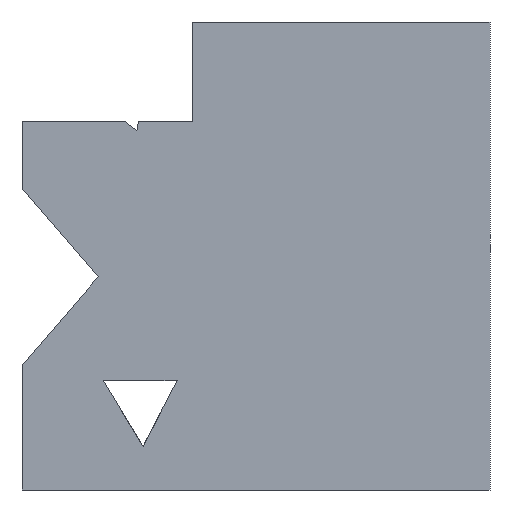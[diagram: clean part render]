
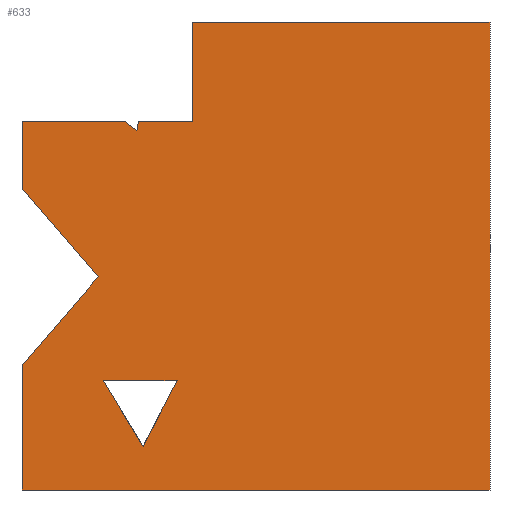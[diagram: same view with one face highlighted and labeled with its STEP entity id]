
A CAD part, front view. The second image highlights one B-rep face of the part: STEP entity #633.
In plain terms, the highlighted planar face has unit normal (0, -1, 0).
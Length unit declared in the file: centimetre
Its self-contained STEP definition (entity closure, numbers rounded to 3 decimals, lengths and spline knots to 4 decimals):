
#1 = DIRECTION ( 'NONE',  ( 0., 1., 0. ) ) ;
#2 = EDGE_CURVE ( 'NONE', #272, #228, #312, .T. ) ;
#3 = CARTESIAN_POINT ( 'NONE',  ( 0., 0., 265.6039 ) ) ;
#7 = DIRECTION ( 'NONE',  ( 0., 0., 1. ) ) ;
#17 = CARTESIAN_POINT ( 'NONE',  ( 162.7425, 0., 455.3137 ) ) ;
#32 = CARTESIAN_POINT ( 'NONE',  ( 365.2625, 0., 788.43 ) ) ;
#34 = VECTOR ( 'NONE', #336, 100. ) ;
#36 = ORIENTED_EDGE ( 'NONE', *, *, #166, .F. ) ;
#51 = LINE ( 'NONE', #369, #489 ) ;
#52 = EDGE_CURVE ( 'NONE', #630, #149, #573, .T. ) ;
#53 = CARTESIAN_POINT ( 'NONE',  ( 365.2625, 0., 788.43 ) ) ;
#56 = LINE ( 'NONE', #61, #620 ) ;
#61 = CARTESIAN_POINT ( 'NONE',  ( 245.505, 0., 767.9714 ) ) ;
#77 = LINE ( 'NONE', #491, #185 ) ;
#82 = DIRECTION ( 'NONE',  ( 0., 0., -1. ) ) ;
#83 = VERTEX_POINT ( 'NONE', #342 ) ;
#116 = DIRECTION ( 'NONE',  ( 0.148, 0., 0.989 ) ) ;
#119 = VECTOR ( 'NONE', #505, 100. ) ;
#122 = CARTESIAN_POINT ( 'NONE',  ( 0., 0., 265.6039 ) ) ;
#125 = AXIS2_PLACEMENT_3D ( 'NONE', #216, #1, #425 ) ;
#130 = CARTESIAN_POINT ( 'NONE',  ( 0., 0., 1000. ) ) ;
#141 = ORIENTED_EDGE ( 'NONE', *, *, #322, .T. ) ;
#149 = VERTEX_POINT ( 'NONE', #17 ) ;
#152 = FACE_OUTER_BOUND ( 'NONE', #397, .T. ) ;
#155 = CARTESIAN_POINT ( 'NONE',  ( 365.2625, 0., 788.43 ) ) ;
#166 = EDGE_CURVE ( 'NONE', #474, #360, #172, .T. ) ;
#171 = CARTESIAN_POINT ( 'NONE',  ( 365.2625, 0., 788.43 ) ) ;
#172 = LINE ( 'NONE', #393, #611 ) ;
#173 = LINE ( 'NONE', #122, #34 ) ;
#175 = EDGE_CURVE ( 'NONE', #431, #180, #559, .T. ) ;
#180 = VERTEX_POINT ( 'NONE', #197 ) ;
#185 = VECTOR ( 'NONE', #567, 100. ) ;
#197 = CARTESIAN_POINT ( 'NONE',  ( 173.5571, 0., 233.5737 ) ) ;
#214 = ORIENTED_EDGE ( 'NONE', *, *, #2, .F. ) ;
#216 = CARTESIAN_POINT ( 'NONE',  ( 0., 0., 1000. ) ) ;
#219 = CARTESIAN_POINT ( 'NONE',  ( 248.5589, 0., 788.43 ) ) ;
#220 = LINE ( 'NONE', #648, #565 ) ;
#221 = VECTOR ( 'NONE', #305, 100. ) ;
#228 = VERTEX_POINT ( 'NONE', #501 ) ;
#231 = CARTESIAN_POINT ( 'NONE',  ( 258.6713, 0., 93.214 ) ) ;
#234 = DIRECTION ( 'NONE',  ( -0.461, 0., -0.887 ) ) ;
#240 = DIRECTION ( 'NONE',  ( 1., 0., 0. ) ) ;
#249 = CARTESIAN_POINT ( 'NONE',  ( 173.5571, 0., 233.5737 ) ) ;
#251 = ORIENTED_EDGE ( 'NONE', *, *, #260, .T. ) ;
#260 = EDGE_CURVE ( 'NONE', #474, #324, #509, .T. ) ;
#271 = LINE ( 'NONE', #155, #306 ) ;
#272 = VERTEX_POINT ( 'NONE', #682 ) ;
#278 = CARTESIAN_POINT ( 'NONE',  ( 219.7758, 0., 788.43 ) ) ;
#279 = VECTOR ( 'NONE', #453, 100. ) ;
#280 = FACE_BOUND ( 'NONE', #347, .T. ) ;
#281 = ORIENTED_EDGE ( 'NONE', *, *, #52, .T. ) ;
#285 = VECTOR ( 'NONE', #7, 100. ) ;
#288 = ORIENTED_EDGE ( 'NONE', *, *, #334, .T. ) ;
#291 = LINE ( 'NONE', #231, #555 ) ;
#300 = ORIENTED_EDGE ( 'NONE', *, *, #661, .F. ) ;
#305 = DIRECTION ( 'NONE',  ( 0.651, 0., -0.759 ) ) ;
#306 = VECTOR ( 'NONE', #640, 100. ) ;
#312 = LINE ( 'NONE', #577, #581 ) ;
#318 = DIRECTION ( 'NONE',  ( 0., 0., -1. ) ) ;
#322 = EDGE_CURVE ( 'NONE', #495, #83, #77, .T. ) ;
#323 = CARTESIAN_POINT ( 'NONE',  ( 258.6713, 0., 93.214 ) ) ;
#324 = VERTEX_POINT ( 'NONE', #560 ) ;
#329 = EDGE_CURVE ( 'NONE', #406, #495, #346, .T. ) ;
#331 = DIRECTION ( 'NONE',  ( 0.783, 0., -0.622 ) ) ;
#334 = EDGE_CURVE ( 'NONE', #513, #431, #291, .T. ) ;
#336 = DIRECTION ( 'NONE',  ( -0.651, 0., -0.759 ) ) ;
#342 = CARTESIAN_POINT ( 'NONE',  ( 1000., 0., 0. ) ) ;
#346 = LINE ( 'NONE', #130, #544 ) ;
#347 = EDGE_LOOP ( 'NONE', ( #353, #288, #649 ) ) ;
#353 = ORIENTED_EDGE ( 'NONE', *, *, #527, .T. ) ;
#360 = VERTEX_POINT ( 'NONE', #395 ) ;
#362 = EDGE_CURVE ( 'NONE', #149, #406, #173, .T. ) ;
#365 = VECTOR ( 'NONE', #651, 100. ) ;
#369 = CARTESIAN_POINT ( 'NONE',  ( 0., 0., 1000. ) ) ;
#374 = LINE ( 'NONE', #171, #285 ) ;
#376 = DIRECTION ( 'NONE',  ( 1., 0., 0. ) ) ;
#392 = ORIENTED_EDGE ( 'NONE', *, *, #574, .F. ) ;
#393 = CARTESIAN_POINT ( 'NONE',  ( 140.6913, 0., 851.3141 ) ) ;
#395 = CARTESIAN_POINT ( 'NONE',  ( 245.505, 0., 767.9714 ) ) ;
#397 = EDGE_LOOP ( 'NONE', ( #281, #670, #568, #141, #300, #214, #662, #464, #392, #36, #251, #524 ) ) ;
#398 = CARTESIAN_POINT ( 'NONE',  ( 162.7425, 0., 455.3137 ) ) ;
#406 = VERTEX_POINT ( 'NONE', #3 ) ;
#412 = EDGE_CURVE ( 'NONE', #429, #599, #271, .T. ) ;
#419 = CARTESIAN_POINT ( 'NONE',  ( 331.5532, 0., 233.5737 ) ) ;
#420 = CARTESIAN_POINT ( 'NONE',  ( 0., 0., 645.0235 ) ) ;
#425 = DIRECTION ( 'NONE',  ( 0., 0., 1. ) ) ;
#429 = VERTEX_POINT ( 'NONE', #53 ) ;
#431 = VERTEX_POINT ( 'NONE', #323 ) ;
#453 = DIRECTION ( 'NONE',  ( -1., 0., 0. ) ) ;
#464 = ORIENTED_EDGE ( 'NONE', *, *, #412, .T. ) ;
#474 = VERTEX_POINT ( 'NONE', #278 ) ;
#477 = CARTESIAN_POINT ( 'NONE',  ( 1000., 0., 1000. ) ) ;
#485 = LINE ( 'NONE', #477, #365 ) ;
#489 = VECTOR ( 'NONE', #318, 100. ) ;
#491 = CARTESIAN_POINT ( 'NONE',  ( 0., 0., 0. ) ) ;
#495 = VERTEX_POINT ( 'NONE', #598 ) ;
#501 = CARTESIAN_POINT ( 'NONE',  ( 1000., 0., 1000. ) ) ;
#505 = DIRECTION ( 'NONE',  ( -0.519, 0., 0.855 ) ) ;
#509 = LINE ( 'NONE', #32, #279 ) ;
#513 = VERTEX_POINT ( 'NONE', #419 ) ;
#524 = ORIENTED_EDGE ( 'NONE', *, *, #615, .T. ) ;
#527 = EDGE_CURVE ( 'NONE', #180, #513, #220, .T. ) ;
#533 = PLANE ( 'NONE',  #125 ) ;
#544 = VECTOR ( 'NONE', #82, 100. ) ;
#555 = VECTOR ( 'NONE', #234, 100. ) ;
#559 = LINE ( 'NONE', #249, #119 ) ;
#560 = CARTESIAN_POINT ( 'NONE',  ( 0., 0., 788.43 ) ) ;
#565 = VECTOR ( 'NONE', #376, 100. ) ;
#567 = DIRECTION ( 'NONE',  ( 1., 0., 0. ) ) ;
#568 = ORIENTED_EDGE ( 'NONE', *, *, #329, .T. ) ;
#573 = LINE ( 'NONE', #398, #221 ) ;
#574 = EDGE_CURVE ( 'NONE', #360, #599, #56, .T. ) ;
#577 = CARTESIAN_POINT ( 'NONE',  ( 0., 0., 1000. ) ) ;
#581 = VECTOR ( 'NONE', #240, 100. ) ;
#598 = CARTESIAN_POINT ( 'NONE',  ( 0., 0., 0. ) ) ;
#599 = VERTEX_POINT ( 'NONE', #219 ) ;
#611 = VECTOR ( 'NONE', #331, 100. ) ;
#615 = EDGE_CURVE ( 'NONE', #324, #630, #51, .T. ) ;
#620 = VECTOR ( 'NONE', #116, 100. ) ;
#630 = VERTEX_POINT ( 'NONE', #420 ) ;
#633 = ADVANCED_FACE ( 'NONE', ( #280, #152 ), #533, .F. ) ;
#640 = DIRECTION ( 'NONE',  ( -1., 0., 0. ) ) ;
#648 = CARTESIAN_POINT ( 'NONE',  ( 331.5532, 0., 233.5737 ) ) ;
#649 = ORIENTED_EDGE ( 'NONE', *, *, #175, .T. ) ;
#651 = DIRECTION ( 'NONE',  ( 0., 0., -1. ) ) ;
#661 = EDGE_CURVE ( 'NONE', #228, #83, #485, .T. ) ;
#662 = ORIENTED_EDGE ( 'NONE', *, *, #666, .F. ) ;
#666 = EDGE_CURVE ( 'NONE', #429, #272, #374, .T. ) ;
#670 = ORIENTED_EDGE ( 'NONE', *, *, #362, .T. ) ;
#682 = CARTESIAN_POINT ( 'NONE',  ( 365.2625, 0., 1000. ) ) ;
